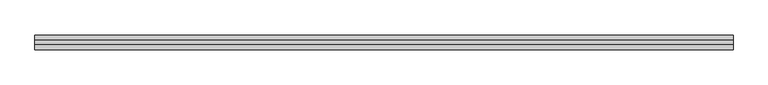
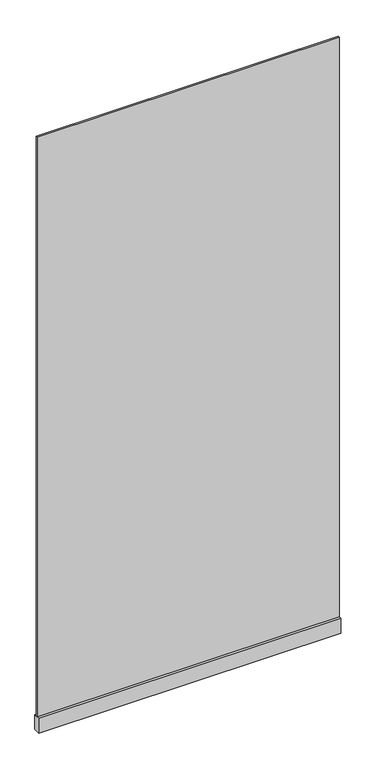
"""IFC4 building model written with IfcOpenShell, lengths in millimetres: plate geometry, r パネル FIX 下框付 : 框 H100."""

from ifc_helpers import new_model, si_unit, frame, origin, origin_with_axes, place, context, project, spatial, polyline, outline, extrude, source, transform, mapped, element, save


def plate_4cdf4cda(model_context):
    return source(origin(), model_context, "Body", "SweptSolid", [
        extrude(outline(polyline([(-955.7142857, -5.0), (-955.7142857, 5.0), (955.7142857, 5.0), (955.7142857, -5.0), (-955.7142857, -5.0)])), frame((0.0, 0.0, 100.0), z_axis=(0.0, 0.0, 1.0), x_axis=(1.0, 0.0, 0.0)), (0.0, 0.0, 1.0), 3875.0),
        extrude(outline(polyline([(-955.7142857, -20.0), (-955.7142857, 20.0), (955.7142857, 20.0), (955.7142857, -20.0), (-955.7142857, -20.0)])), origin_with_axes(), (0.0, 0.0, 1.0), 100.0),
    ])


if __name__ == "__main__":
    model = new_model("IFC4")
    model_context = context("Model", 3, world=origin())
    ifc_project = project(units=[si_unit("LENGTHUNIT", "METRE", prefix="MILLI")], contexts=[model_context])
    site = spatial("IfcSite", under=ifc_project)
    building = spatial("IfcBuilding", under=site)
    placement = place(None, origin())
    plate_shape = plate_4cdf4cda(model_context)
    element("IfcPlate", 1, ObjectType="r パネル FIX 下框付 : 框 H100", at=placement, inside=building, context=model_context, shape_type="MappedRepresentation", body=[
        mapped(plate_shape, transform((0.0, 0.0, 0.0), x_axis=(1.0, 0.0, 0.0), y_axis=(0.0, 1.0, 0.0), z_axis=(0.0, 0.0, 1.0))),
    ])
    save(model, "model.ifc")
